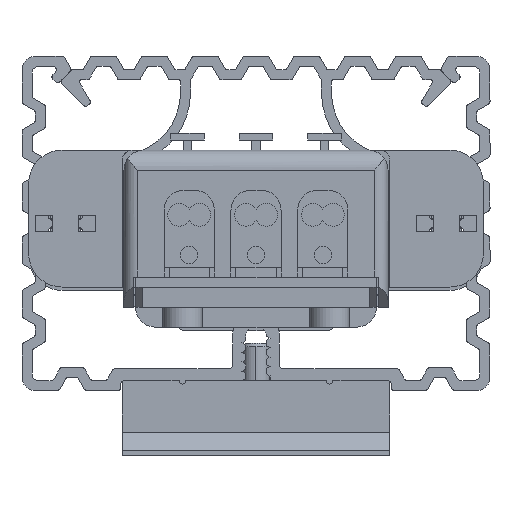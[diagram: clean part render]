
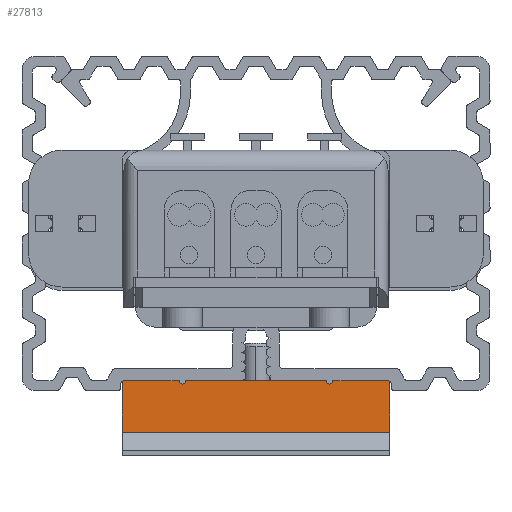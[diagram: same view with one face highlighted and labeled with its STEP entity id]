
A CAD part, front view. The second image highlights one B-rep face of the part: STEP entity #27813.
In plain terms, the highlighted planar face has unit normal (0, -1, 0).
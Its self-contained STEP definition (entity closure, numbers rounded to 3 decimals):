
#7154 = CARTESIAN_POINT ( 'NONE',  ( 20., -14.75, -6.7 ) ) ;
#7217 = CARTESIAN_POINT ( 'NONE',  ( -20., -14.75, -6.7 ) ) ;
#7239 = LINE ( 'NONE', #7245, #7296 ) ;
#7240 = AXIS2_PLACEMENT_3D ( 'NONE', #7301, #7300, #7299 ) ;
#7245 = CARTESIAN_POINT ( 'NONE',  ( 0., -14.75, 1. ) ) ;
#7257 = CARTESIAN_POINT ( 'NONE',  ( 20., -14.75, 1. ) ) ;
#7259 = FACE_OUTER_BOUND ( 'NONE', #27847, .T. ) ;
#7272 = PLANE ( 'NONE',  #7240 ) ;
#7275 = DIRECTION ( 'NONE',  ( -1., 0., 0. ) ) ;
#7276 = CARTESIAN_POINT ( 'NONE',  ( 20., -14.75, -6.7 ) ) ;
#7282 = LINE ( 'NONE', #7276, #7332 ) ;
#7283 = DIRECTION ( 'NONE',  ( 0., 0., -1. ) ) ;
#7284 = VECTOR ( 'NONE', #7283, 1000. ) ;
#7285 = LINE ( 'NONE', #7291, #7284 ) ;
#7287 = CARTESIAN_POINT ( 'NONE',  ( -20., -14.75, 1. ) ) ;
#7291 = CARTESIAN_POINT ( 'NONE',  ( -20., -14.75, -6.7 ) ) ;
#7295 = DIRECTION ( 'NONE',  ( -1., 0., 0. ) ) ;
#7296 = VECTOR ( 'NONE', #7295, 1000. ) ;
#7299 = DIRECTION ( 'NONE',  ( 1., 0., 0. ) ) ;
#7300 = DIRECTION ( 'NONE',  ( 0., -1., 0. ) ) ;
#7301 = CARTESIAN_POINT ( 'NONE',  ( 20., -14.75, -1.4 ) ) ;
#7328 = DIRECTION ( 'NONE',  ( 0., 0., 1. ) ) ;
#7329 = VECTOR ( 'NONE', #7328, 1000. ) ;
#7330 = CARTESIAN_POINT ( 'NONE',  ( 20., -14.75, -6.7 ) ) ;
#7331 = LINE ( 'NONE', #7330, #7329 ) ;
#7332 = VECTOR ( 'NONE', #7275, 1000. ) ;
#27733 = VERTEX_POINT ( 'NONE', #7154 ) ;
#27740 = VERTEX_POINT ( 'NONE', #7217 ) ;
#27813 = ADVANCED_FACE ( 'NONE', ( #7259 ), #7272, .T. ) ;
#27815 = ORIENTED_EDGE ( 'NONE', *, *, #27841, .F. ) ;
#27816 = ORIENTED_EDGE ( 'NONE', *, *, #27830, .T. ) ;
#27817 = ORIENTED_EDGE ( 'NONE', *, *, #27825, .T. ) ;
#27822 = VERTEX_POINT ( 'NONE', #7257 ) ;
#27823 = ORIENTED_EDGE ( 'NONE', *, *, #27844, .T. ) ;
#27825 = EDGE_CURVE ( 'NONE', #27822, #27832, #7239, .T. ) ;
#27830 = EDGE_CURVE ( 'NONE', #27832, #27740, #7285, .T. ) ;
#27832 = VERTEX_POINT ( 'NONE', #7287 ) ;
#27841 = EDGE_CURVE ( 'NONE', #27733, #27740, #7282, .T. ) ;
#27844 = EDGE_CURVE ( 'NONE', #27733, #27822, #7331, .T. ) ;
#27847 = EDGE_LOOP ( 'NONE', ( #27816, #27815, #27823, #27817 ) ) ;
